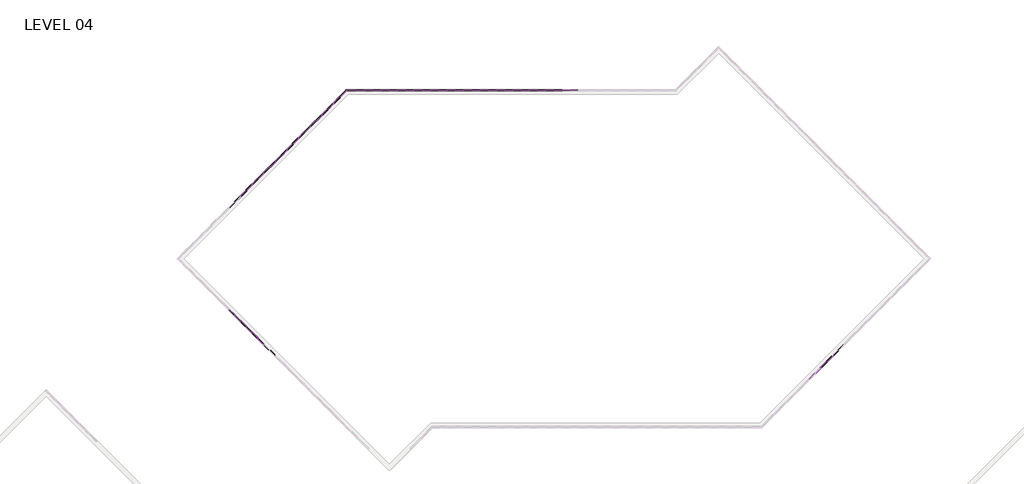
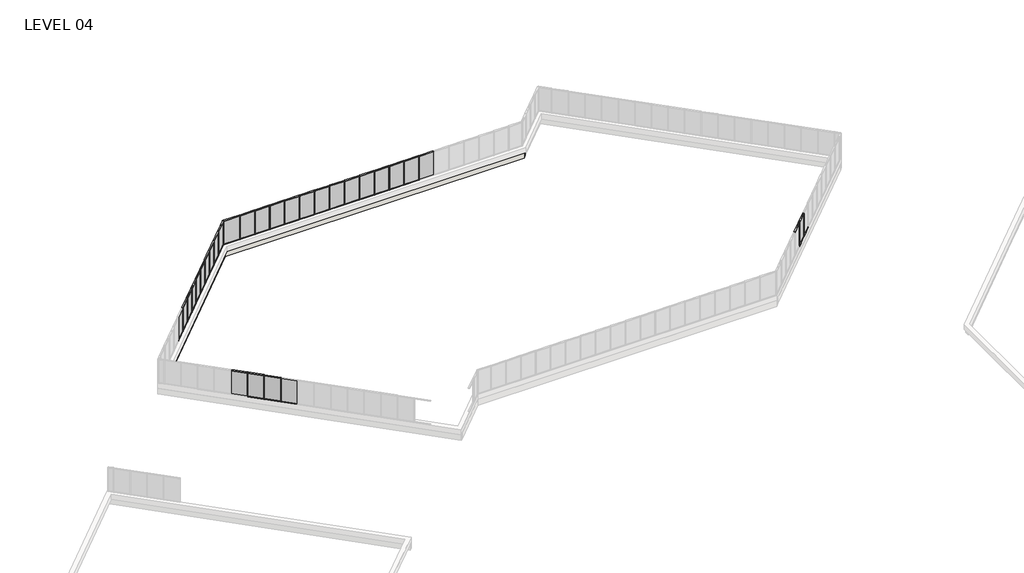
# One storey, part 14 of 17: 85 members, 29 plates, 2 walls.
"""IFC4 building model written with IfcOpenShell, lengths in millimetres."""

from ifc_helpers import new_model, si_unit, origin, place, context, project, spatial, faceted_brep, transform, mapped, element, save
from components import member_5247f267, member_e44af9ab, member_800970d4, member_1bd862b2, member_7ca0f77f, plate_67294edd, plate_bbcbcabf, plate_3fb62afd, plate_e0fd5134

model = new_model("IFC4")

# Units and contexts
model_context = context("Model", 3, world=origin())
ifc_project = project(units=[si_unit("LENGTHUNIT", "METRE", prefix="MILLI")], contexts=[model_context])

# Site, building, storey
site = spatial("IfcSite", under=ifc_project)
building = spatial("IfcBuilding", under=site)
storey = spatial("IfcBuildingStorey", under=building, Name="LEVEL 04", Elevation=12052.3)

# Members
placement = place(None, origin())
member_shape = member_5247f267(model_context)
element("IfcMember", 1, ObjectType="Rectangular Mullion : 2\" x 4.5\" rectangular", at=placement, inside=storey, context=model_context, shape_type="MappedRepresentation", body=[
    mapped(member_shape, transform((30562.55, 120127.9523049, 12052.3), x_axis=(0.0, 0.0, -1.0), y_axis=(0.0, 1.0, 0.0), z_axis=(1.0, 0.0, 0.0))),
])
element("IfcMember", 2, ObjectType="Rectangular Mullion : 2\" x 4.5\" rectangular", at=placement, inside=storey, context=model_context, shape_type="MappedRepresentation", body=[
    mapped(member_shape, transform((29038.55, 120127.9523049, 12052.3), x_axis=(0.0, 0.0, -1.0), y_axis=(0.0, 1.0, 0.0), z_axis=(1.0, 0.0, 0.0))),
])
element("IfcMember", 3, ObjectType="Rectangular Mullion : 2\" x 4.5\" rectangular", at=placement, inside=storey, context=model_context, shape_type="MappedRepresentation", body=[
    mapped(member_shape, transform((27514.55, 120127.9523049, 12052.3), x_axis=(0.0, 0.0, -1.0), y_axis=(0.0, 1.0, 0.0), z_axis=(1.0, 0.0, 0.0))),
])
element("IfcMember", 4, ObjectType="Rectangular Mullion : 2\" x 4.5\" rectangular", at=placement, inside=storey, context=model_context, shape_type="MappedRepresentation", body=[
    mapped(member_shape, transform((24466.55, 120127.9523049, 12052.3), x_axis=(0.0, 0.0, -1.0), y_axis=(0.0, 1.0, 0.0), z_axis=(1.0, 0.0, 0.0))),
])
element("IfcMember", 5, ObjectType="Rectangular Mullion : 2\" x 4.5\" rectangular", at=placement, inside=storey, context=model_context, shape_type="MappedRepresentation", body=[
    mapped(member_shape, transform((22942.55, 120127.9523049, 12052.3), x_axis=(0.0, 0.0, -1.0), y_axis=(0.0, 1.0, 0.0), z_axis=(1.0, 0.0, 0.0))),
])
element("IfcMember", 6, ObjectType="Rectangular Mullion : 2\" x 4.5\" rectangular", at=placement, inside=storey, context=model_context, shape_type="MappedRepresentation", body=[
    mapped(member_shape, transform((19894.55, 120127.9523049, 12052.3), x_axis=(0.0, 0.0, -1.0), y_axis=(0.0, 1.0, 0.0), z_axis=(1.0, 0.0, 0.0))),
])
element("IfcMember", 7, ObjectType="Rectangular Mullion : 2\" x 4.5\" rectangular", at=placement, inside=storey, context=model_context, shape_type="MappedRepresentation", body=[
    mapped(member_shape, transform((15322.55, 120127.9523049, 12052.3), x_axis=(0.0, 0.0, -1.0), y_axis=(0.0, 1.0, 0.0), z_axis=(1.0, 0.0, 0.0))),
])
element("IfcMember", 8, ObjectType="Rectangular Mullion : 2\" x 4.5\" rectangular", at=placement, inside=storey, context=model_context, shape_type="MappedRepresentation", body=[
    mapped(member_shape, transform((13798.55, 120127.9523049, 12052.3), x_axis=(0.0, 0.0, -1.0), y_axis=(0.0, 1.0, 0.0), z_axis=(1.0, 0.0, 0.0))),
])
element("IfcMember", 9, ObjectType="Rectangular Mullion : 2\" x 4.5\" rectangular", at=placement, inside=storey, context=model_context, shape_type="MappedRepresentation", body=[
    mapped(member_shape, transform((21418.55, 120127.9523049, 12052.3), x_axis=(0.0, 0.0, -1.0), y_axis=(0.0, 1.0, 0.0), z_axis=(1.0, 0.0, 0.0))),
])
element("IfcMember", 10, ObjectType="Rectangular Mullion : 2\" x 4.5\" rectangular", at=placement, inside=storey, context=model_context, shape_type="MappedRepresentation", body=[
    mapped(member_shape, transform((25990.55, 120127.9523049, 12052.3), x_axis=(0.0, 0.0, -1.0), y_axis=(0.0, 1.0, 0.0), z_axis=(1.0, 0.0, 0.0))),
])
element("IfcMember", 11, ObjectType="Rectangular Mullion : 2\" x 4.5\" rectangular", at=placement, inside=storey, context=model_context, shape_type="MappedRepresentation", body=[
    mapped(member_shape, transform((18370.55, 120127.9523049, 12052.3), x_axis=(0.0, 0.0, -1.0), y_axis=(0.0, 1.0, 0.0), z_axis=(1.0, 0.0, 0.0))),
])
element("IfcMember", 12, ObjectType="Rectangular Mullion : 2\" x 4.5\" rectangular", at=placement, inside=storey, context=model_context, shape_type="MappedRepresentation", body=[
    mapped(member_shape, transform((16846.55, 120127.9523049, 12052.3), x_axis=(0.0, 0.0, -1.0), y_axis=(0.0, 1.0, 0.0), z_axis=(1.0, 0.0, 0.0))),
])
element("IfcMember", 13, ObjectType="Rectangular Mullion : 2\" x 4.5\" rectangular", at=placement, inside=storey, context=model_context, shape_type="MappedRepresentation", body=[
    mapped(member_shape, transform((9397.6593581, 118915.3677986, 12052.3), x_axis=(0.0, 0.0, -1.0), y_axis=(-0.7071067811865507, 0.7071067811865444, 0.0), z_axis=(0.7071067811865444, 0.7071067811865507, 0.0))),
])
element("IfcMember", 14, ObjectType="Rectangular Mullion : 2\" x 4.5\" rectangular", at=placement, inside=storey, context=model_context, shape_type="MappedRepresentation", body=[
    mapped(member_shape, transform((8320.0286235, 117837.7370641, 12052.3), x_axis=(0.0, 0.0, -1.0), y_axis=(-0.7071067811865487, 0.7071067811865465, 0.0), z_axis=(0.7071067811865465, 0.7071067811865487, 0.0))),
])
element("IfcMember", 15, ObjectType="Rectangular Mullion : 2\" x 4.5\" rectangular", at=placement, inside=storey, context=model_context, shape_type="MappedRepresentation", body=[
    mapped(member_shape, transform((7242.397889, 116760.1063296, 12052.3), x_axis=(0.0, 0.0, -1.0), y_axis=(-0.7071067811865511, 0.707106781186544, 0.0), z_axis=(0.707106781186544, 0.7071067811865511, 0.0))),
])
element("IfcMember", 16, ObjectType="Rectangular Mullion : 2\" x 4.5\" rectangular", at=placement, inside=storey, context=model_context, shape_type="MappedRepresentation", body=[
    mapped(member_shape, transform((6164.7671545, 115682.475595, 12052.3), x_axis=(0.0, 0.0, -1.0), y_axis=(-0.7071067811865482, 0.7071067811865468, 0.0), z_axis=(0.7071067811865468, 0.7071067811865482, 0.0))),
])
element("IfcMember", 17, ObjectType="Rectangular Mullion : 2\" x 4.5\" rectangular", at=placement, inside=storey, context=model_context, shape_type="MappedRepresentation", body=[
    mapped(member_shape, transform((4009.5056854, 113527.214126, 12052.3), x_axis=(0.0, 0.0, -1.0), y_axis=(-0.7071067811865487, 0.7071067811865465, 0.0), z_axis=(0.7071067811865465, 0.7071067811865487, 0.0))),
])
element("IfcMember", 18, ObjectType="Rectangular Mullion : 2\" x 4.5\" rectangular", at=placement, inside=storey, context=model_context, shape_type="MappedRepresentation", body=[
    mapped(member_shape, transform((2931.8749509, 112449.5833914, 12052.3), x_axis=(0.0, 0.0, -1.0), y_axis=(-0.7071067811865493, 0.7071067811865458, 0.0), z_axis=(0.7071067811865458, 0.7071067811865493, 0.0))),
])
element("IfcMember", 19, ObjectType="Rectangular Mullion : 2\" x 4.5\" rectangular", at=placement, inside=storey, context=model_context, shape_type="MappedRepresentation", body=[
    mapped(member_shape, transform((1854.2442164, 111371.9526569, 12052.3), x_axis=(0.0, 0.0, -1.0), y_axis=(-0.7071067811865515, 0.7071067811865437, 0.0), z_axis=(0.7071067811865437, 0.7071067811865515, 0.0))),
])
element("IfcMember", 20, ObjectType="Rectangular Mullion : 2\" x 4.5\" rectangular", at=placement, inside=storey, context=model_context, shape_type="MappedRepresentation", body=[
    mapped(member_shape, transform((5087.1364199, 114604.8448605, 12052.3), x_axis=(0.0, 0.0, -1.0), y_axis=(-0.7071067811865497, 0.7071067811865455, 0.0), z_axis=(0.7071067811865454, 0.7071067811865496, 0.0))),
])
element("IfcMember", 21, ObjectType="Rectangular Mullion : 2\" x 4.5\" rectangular", at=placement, inside=storey, context=model_context, shape_type="MappedRepresentation", body=[
    mapped(member_shape, transform((776.6134818, 110294.3219224, 12052.3), x_axis=(0.0, 0.0, -1.0), y_axis=(-0.7071067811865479, 0.7071067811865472, 0.0), z_axis=(0.7071067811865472, 0.7071067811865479, 0.0))),
])
element("IfcMember", 22, ObjectType="Rectangular Mullion : 2\" x 4.5\" rectangular", at=placement, inside=storey, context=model_context, shape_type="MappedRepresentation", body=[
    mapped(member_shape, transform((812.713179, 98753.3329903, 12052.3), x_axis=(0.0, 0.0, -1.0), y_axis=(-0.7071067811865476, -0.7071067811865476, 0.0), z_axis=(-0.7071067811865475, 0.7071067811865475, 0.0))),
])
element("IfcMember", 23, ObjectType="Rectangular Mullion : 2\" x 4.5\" rectangular", at=placement, inside=storey, context=model_context, shape_type="MappedRepresentation", body=[
    mapped(member_shape, transform((1890.3439135, 97675.7022558, 12052.3), x_axis=(0.0, 0.0, -1.0), y_axis=(-0.7071067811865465, -0.7071067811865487, 0.0), z_axis=(-0.7071067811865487, 0.7071067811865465, 0.0))),
])
element("IfcMember", 24, ObjectType="Rectangular Mullion : 2\" x 4.5\" rectangular", at=placement, inside=storey, context=model_context, shape_type="MappedRepresentation", body=[
    mapped(member_shape, transform((2967.974648, 96598.0715213, 12052.3), x_axis=(0.0, 0.0, -1.0), y_axis=(-0.7071067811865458, -0.7071067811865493, 0.0), z_axis=(-0.7071067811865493, 0.7071067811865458, 0.0))),
])
element("IfcMember", 25, ObjectType="Rectangular Mullion : 2\" x 4.5\" rectangular", at=placement, inside=storey, context=model_context, shape_type="MappedRepresentation", body=[
    mapped(member_shape, transform((55642.2748488, 95556.4210181, 12052.3), x_axis=(0.0, 0.0, -1.0), y_axis=(0.7071067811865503, -0.7071067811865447, 0.0), z_axis=(-0.7071067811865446, -0.7071067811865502, 0.0))),
])
element("IfcMember", 26, ObjectType="Rectangular Mullion : 2\" x 4.5\" rectangular", at=placement, inside=storey, context=model_context, shape_type="MappedRepresentation", body=[
    mapped(member_shape, transform((54564.6515152, 94478.7976845, 12052.3), x_axis=(0.0, 0.0, -1.0), y_axis=(0.7071067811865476, -0.7071067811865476, 0.0), z_axis=(-0.7071067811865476, -0.7071067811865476, 0.0))),
])
element("IfcMember", 27, ObjectType="Rectangular Mullion : 2\" x 4.5\" rectangular", at=placement, inside=storey, context=model_context, shape_type="MappedRepresentation", body=[
    mapped(member_shape, transform((30613.35, 120127.9523049, 14643.1), x_axis=(0.0, 0.0, 1.0), y_axis=(0.0, 1.0, 0.0), z_axis=(-1.0, 0.0, 0.0))),
])
element("IfcMember", 28, ObjectType="Rectangular Mullion : 2\" x 4.5\" rectangular", at=placement, inside=storey, context=model_context, shape_type="MappedRepresentation", body=[
    mapped(member_shape, transform((29089.35, 120127.9523049, 14643.1), x_axis=(0.0, 0.0, 1.0), y_axis=(0.0, 1.0, 0.0), z_axis=(-1.0, 0.0, 0.0))),
])
element("IfcMember", 29, ObjectType="Rectangular Mullion : 2\" x 4.5\" rectangular", at=placement, inside=storey, context=model_context, shape_type="MappedRepresentation", body=[
    mapped(member_shape, transform((27565.35, 120127.9523049, 14643.1), x_axis=(0.0, 0.0, 1.0), y_axis=(0.0, 1.0, 0.0), z_axis=(-1.0, 0.0, 0.0))),
])
element("IfcMember", 30, ObjectType="Rectangular Mullion : 2\" x 4.5\" rectangular", at=placement, inside=storey, context=model_context, shape_type="MappedRepresentation", body=[
    mapped(member_shape, transform((24517.35, 120127.9523049, 14643.1), x_axis=(0.0, 0.0, 1.0), y_axis=(0.0, 1.0, 0.0), z_axis=(-1.0, 0.0, 0.0))),
])
element("IfcMember", 31, ObjectType="Rectangular Mullion : 2\" x 4.5\" rectangular", at=placement, inside=storey, context=model_context, shape_type="MappedRepresentation", body=[
    mapped(member_shape, transform((22993.35, 120127.9523049, 14643.1), x_axis=(0.0, 0.0, 1.0), y_axis=(0.0, 1.0, 0.0), z_axis=(-1.0, 0.0, 0.0))),
])
element("IfcMember", 32, ObjectType="Rectangular Mullion : 2\" x 4.5\" rectangular", at=placement, inside=storey, context=model_context, shape_type="MappedRepresentation", body=[
    mapped(member_shape, transform((19945.35, 120127.9523049, 14643.1), x_axis=(0.0, 0.0, 1.0), y_axis=(0.0, 1.0, 0.0), z_axis=(-1.0, 0.0, 0.0))),
])
element("IfcMember", 33, ObjectType="Rectangular Mullion : 2\" x 4.5\" rectangular", at=placement, inside=storey, context=model_context, shape_type="MappedRepresentation", body=[
    mapped(member_shape, transform((15373.35, 120127.9523049, 14643.1), x_axis=(0.0, 0.0, 1.0), y_axis=(0.0, 1.0, 0.0), z_axis=(-1.0, 0.0, 0.0))),
])
element("IfcMember", 34, ObjectType="Rectangular Mullion : 2\" x 4.5\" rectangular", at=placement, inside=storey, context=model_context, shape_type="MappedRepresentation", body=[
    mapped(member_shape, transform((13849.35, 120127.9523049, 14643.1), x_axis=(0.0, 0.0, 1.0), y_axis=(0.0, 1.0, 0.0), z_axis=(-1.0, 0.0, 0.0))),
])
element("IfcMember", 35, ObjectType="Rectangular Mullion : 2\" x 4.5\" rectangular", at=placement, inside=storey, context=model_context, shape_type="MappedRepresentation", body=[
    mapped(member_shape, transform((21469.35, 120127.9523049, 14643.1), x_axis=(0.0, 0.0, 1.0), y_axis=(0.0, 1.0, 0.0), z_axis=(-1.0, 0.0, 0.0))),
])
element("IfcMember", 36, ObjectType="Rectangular Mullion : 2\" x 4.5\" rectangular", at=placement, inside=storey, context=model_context, shape_type="MappedRepresentation", body=[
    mapped(member_shape, transform((26041.35, 120127.9523049, 14643.1), x_axis=(0.0, 0.0, 1.0), y_axis=(0.0, 1.0, 0.0), z_axis=(-1.0, 0.0, 0.0))),
])
element("IfcMember", 37, ObjectType="Rectangular Mullion : 2\" x 4.5\" rectangular", at=placement, inside=storey, context=model_context, shape_type="MappedRepresentation", body=[
    mapped(member_shape, transform((18421.35, 120127.9523049, 14643.1), x_axis=(0.0, 0.0, 1.0), y_axis=(0.0, 1.0, 0.0), z_axis=(-1.0, 0.0, 0.0))),
])
element("IfcMember", 38, ObjectType="Rectangular Mullion : 2\" x 4.5\" rectangular", at=placement, inside=storey, context=model_context, shape_type="MappedRepresentation", body=[
    mapped(member_shape, transform((16897.35, 120127.9523049, 14643.1), x_axis=(0.0, 0.0, 1.0), y_axis=(0.0, 1.0, 0.0), z_axis=(-1.0, 0.0, 0.0))),
])
element("IfcMember", 39, ObjectType="Rectangular Mullion : 2\" x 4.5\" rectangular", at=placement, inside=storey, context=model_context, shape_type="MappedRepresentation", body=[
    mapped(member_shape, transform((12325.35, 120127.9523049, 14643.1), x_axis=(0.0, 0.0, 1.0), y_axis=(0.0, 1.0, 0.0), z_axis=(-1.0, 0.0, 0.0))),
])
element("IfcMember", 40, ObjectType="Rectangular Mullion : 2\" x 4.5\" rectangular", at=placement, inside=storey, context=model_context, shape_type="MappedRepresentation", body=[
    mapped(member_shape, transform((8355.949648, 117873.6580886, 14643.1), x_axis=(0.0, 0.0, 1.0), y_axis=(-0.7071067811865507, 0.7071067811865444, 0.0), z_axis=(-0.7071067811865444, -0.7071067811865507, 0.0))),
])
element("IfcMember", 41, ObjectType="Rectangular Mullion : 2\" x 4.5\" rectangular", at=placement, inside=storey, context=model_context, shape_type="MappedRepresentation", body=[
    mapped(member_shape, transform((7278.3189135, 116796.027354, 14643.1), x_axis=(0.0, 0.0, 1.0), y_axis=(-0.7071067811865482, 0.7071067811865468, 0.0), z_axis=(-0.7071067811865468, -0.7071067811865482, 0.0))),
])
element("IfcMember", 42, ObjectType="Rectangular Mullion : 2\" x 4.5\" rectangular", at=placement, inside=storey, context=model_context, shape_type="MappedRepresentation", body=[
    mapped(member_shape, transform((6200.688179, 115718.3966195, 14643.1), x_axis=(0.0, 0.0, 1.0), y_axis=(-0.7071067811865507, 0.7071067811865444, 0.0), z_axis=(-0.7071067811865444, -0.7071067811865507, 0.0))),
])
element("IfcMember", 43, ObjectType="Rectangular Mullion : 2\" x 4.5\" rectangular", at=placement, inside=storey, context=model_context, shape_type="MappedRepresentation", body=[
    mapped(member_shape, transform((4045.4267099, 113563.1351505, 14643.1), x_axis=(0.0, 0.0, 1.0), y_axis=(-0.7071067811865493, 0.7071067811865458, 0.0), z_axis=(-0.7071067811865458, -0.7071067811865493, 0.0))),
])
element("IfcMember", 44, ObjectType="Rectangular Mullion : 2\" x 4.5\" rectangular", at=placement, inside=storey, context=model_context, shape_type="MappedRepresentation", body=[
    mapped(member_shape, transform((2967.7959754, 112485.5044159, 14643.1), x_axis=(0.0, 0.0, 1.0), y_axis=(-0.7071067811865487, 0.7071067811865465, 0.0), z_axis=(-0.7071067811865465, -0.7071067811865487, 0.0))),
])
element("IfcMember", 45, ObjectType="Rectangular Mullion : 2\" x 4.5\" rectangular", at=placement, inside=storey, context=model_context, shape_type="MappedRepresentation", body=[
    mapped(member_shape, transform((1890.1652408, 111407.8736814, 14643.1), x_axis=(0.0, 0.0, 1.0), y_axis=(-0.7071067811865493, 0.7071067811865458, 0.0), z_axis=(-0.7071067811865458, -0.7071067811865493, 0.0))),
])
element("IfcMember", 46, ObjectType="Rectangular Mullion : 2\" x 4.5\" rectangular", at=placement, inside=storey, context=model_context, shape_type="MappedRepresentation", body=[
    mapped(member_shape, transform((5123.0574444, 114640.765885, 14643.1), x_axis=(0.0, 0.0, 1.0), y_axis=(-0.707106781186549, 0.7071067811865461, 0.0), z_axis=(-0.707106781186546, -0.7071067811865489, 0.0))),
])
element("IfcMember", 47, ObjectType="Rectangular Mullion : 2\" x 4.5\" rectangular", at=placement, inside=storey, context=model_context, shape_type="MappedRepresentation", body=[
    mapped(member_shape, transform((812.5345063, 110330.2429469, 14643.1), x_axis=(0.0, 0.0, 1.0), y_axis=(-0.7071067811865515, 0.7071067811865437, 0.0), z_axis=(-0.7071067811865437, -0.7071067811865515, 0.0))),
])
element("IfcMember", 48, ObjectType="Rectangular Mullion : 2\" x 4.5\" rectangular", at=placement, inside=storey, context=model_context, shape_type="MappedRepresentation", body=[
    mapped(member_shape, transform((776.7921545, 98789.2540148, 14643.1), x_axis=(0.0, 0.0, 1.0), y_axis=(-0.7071067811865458, -0.7071067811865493, 0.0), z_axis=(0.7071067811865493, -0.7071067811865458, 0.0))),
])
element("IfcMember", 49, ObjectType="Rectangular Mullion : 2\" x 4.5\" rectangular", at=placement, inside=storey, context=model_context, shape_type="MappedRepresentation", body=[
    mapped(member_shape, transform((1854.422889, 97711.6232803, 14643.1), x_axis=(0.0, 0.0, 1.0), y_axis=(-0.7071067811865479, -0.7071067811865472, 0.0), z_axis=(0.7071067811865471, -0.7071067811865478, 0.0))),
])
element("IfcMember", 50, ObjectType="Rectangular Mullion : 2\" x 4.5\" rectangular", at=placement, inside=storey, context=model_context, shape_type="MappedRepresentation", body=[
    mapped(member_shape, transform((2932.0536235, 96633.9925458, 14643.1), x_axis=(0.0, 0.0, 1.0), y_axis=(-0.7071067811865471, -0.7071067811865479, 0.0), z_axis=(0.7071067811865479, -0.7071067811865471, 0.0))),
])
element("IfcMember", 51, ObjectType="Rectangular Mullion : 2\" x 4.5\" rectangular", at=placement, inside=storey, context=model_context, shape_type="MappedRepresentation", body=[
    mapped(member_shape, transform((55606.3538244, 95520.4999937, 14643.1), x_axis=(0.0, 0.0, 1.0), y_axis=(0.7071067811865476, -0.7071067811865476, 0.0), z_axis=(0.7071067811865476, 0.7071067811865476, 0.0))),
])
element("IfcMember", 52, ObjectType="Rectangular Mullion : 2\" x 4.5\" rectangular", at=placement, inside=storey, context=model_context, shape_type="MappedRepresentation", body=[
    mapped(member_shape, transform((54528.7304907, 94442.87666, 14643.1), x_axis=(0.0, 0.0, 1.0), y_axis=(0.7071067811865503, -0.7071067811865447, 0.0), z_axis=(0.7071067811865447, 0.7071067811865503, 0.0))),
])
member_2_shape = member_e44af9ab(model_context)
element("IfcMember", 53, ObjectType="Rectangular Mullion : 2\" x 4.5\" rectangular", at=placement, inside=storey, context=model_context, shape_type="MappedRepresentation", body=[
    mapped(member_2_shape, transform((30587.95, 120127.9523049, 12052.3), x_axis=(-1.0, 0.0, 0.0), y_axis=(0.0, 1.0, 0.0), z_axis=(0.0, 0.0, -1.0))),
])
element("IfcMember", 54, ObjectType="Rectangular Mullion : 2\" x 4.5\" rectangular", at=placement, inside=storey, context=model_context, shape_type="MappedRepresentation", body=[
    mapped(member_2_shape, transform((29063.95, 120127.9523049, 12052.3), x_axis=(-1.0, 0.0, 0.0), y_axis=(0.0, 1.0, 0.0), z_axis=(0.0, 0.0, -1.0))),
])
element("IfcMember", 55, ObjectType="Rectangular Mullion : 2\" x 4.5\" rectangular", at=placement, inside=storey, context=model_context, shape_type="MappedRepresentation", body=[
    mapped(member_2_shape, transform((27539.95, 120127.9523049, 12052.3), x_axis=(-1.0, 0.0, 0.0), y_axis=(0.0, 1.0, 0.0), z_axis=(0.0, 0.0, -1.0))),
])
element("IfcMember", 56, ObjectType="Rectangular Mullion : 2\" x 4.5\" rectangular", at=placement, inside=storey, context=model_context, shape_type="MappedRepresentation", body=[
    mapped(member_2_shape, transform((24491.95, 120127.9523049, 12052.3), x_axis=(-1.0, 0.0, 0.0), y_axis=(0.0, 1.0, 0.0), z_axis=(0.0, 0.0, -1.0))),
])
element("IfcMember", 57, ObjectType="Rectangular Mullion : 2\" x 4.5\" rectangular", at=placement, inside=storey, context=model_context, shape_type="MappedRepresentation", body=[
    mapped(member_2_shape, transform((22967.95, 120127.9523049, 12052.3), x_axis=(-1.0, 0.0, 0.0), y_axis=(0.0, 1.0, 0.0), z_axis=(0.0, 0.0, -1.0))),
])
element("IfcMember", 58, ObjectType="Rectangular Mullion : 2\" x 4.5\" rectangular", at=placement, inside=storey, context=model_context, shape_type="MappedRepresentation", body=[
    mapped(member_2_shape, transform((19919.95, 120127.9523049, 12052.3), x_axis=(-1.0, 0.0, 0.0), y_axis=(0.0, 1.0, 0.0), z_axis=(0.0, 0.0, -1.0))),
])
element("IfcMember", 59, ObjectType="Rectangular Mullion : 2\" x 4.5\" rectangular", at=placement, inside=storey, context=model_context, shape_type="MappedRepresentation", body=[
    mapped(member_2_shape, transform((15347.95, 120127.9523049, 12052.3), x_axis=(-1.0, 0.0, 0.0), y_axis=(0.0, 1.0, 0.0), z_axis=(0.0, 0.0, -1.0))),
])
element("IfcMember", 60, ObjectType="Rectangular Mullion : 2\" x 4.5\" rectangular", at=placement, inside=storey, context=model_context, shape_type="MappedRepresentation", body=[
    mapped(member_2_shape, transform((13823.95, 120127.9523049, 12052.3), x_axis=(-1.0, 0.0, 0.0), y_axis=(0.0, 1.0, 0.0), z_axis=(0.0, 0.0, -1.0))),
])
element("IfcMember", 61, ObjectType="Rectangular Mullion : 2\" x 4.5\" rectangular", at=placement, inside=storey, context=model_context, shape_type="MappedRepresentation", body=[
    mapped(member_2_shape, transform((21443.95, 120127.9523049, 12052.3), x_axis=(-1.0, 0.0, 0.0), y_axis=(0.0, 1.0, 0.0), z_axis=(0.0, 0.0, -1.0))),
])
element("IfcMember", 62, ObjectType="Rectangular Mullion : 2\" x 4.5\" rectangular", at=placement, inside=storey, context=model_context, shape_type="MappedRepresentation", body=[
    mapped(member_2_shape, transform((26015.95, 120127.9523049, 12052.3), x_axis=(-1.0, 0.0, 0.0), y_axis=(0.0, 1.0, 0.0), z_axis=(0.0, 0.0, -1.0))),
])
element("IfcMember", 63, ObjectType="Rectangular Mullion : 2\" x 4.5\" rectangular", at=placement, inside=storey, context=model_context, shape_type="MappedRepresentation", body=[
    mapped(member_2_shape, transform((18395.95, 120127.9523049, 12052.3), x_axis=(-1.0, 0.0, 0.0), y_axis=(0.0, 1.0, 0.0), z_axis=(0.0, 0.0, -1.0))),
])
element("IfcMember", 64, ObjectType="Rectangular Mullion : 2\" x 4.5\" rectangular", at=placement, inside=storey, context=model_context, shape_type="MappedRepresentation", body=[
    mapped(member_2_shape, transform((16871.95, 120127.9523049, 12052.3), x_axis=(-1.0, 0.0, 0.0), y_axis=(0.0, 1.0, 0.0), z_axis=(0.0, 0.0, -1.0))),
])
element("IfcMember", 65, ObjectType="Rectangular Mullion : 2\" x 4.5\" rectangular", at=placement, inside=storey, context=model_context, shape_type="MappedRepresentation", body=[
    mapped(member_2_shape, transform((12299.95, 120127.9523049, 12052.3), x_axis=(-1.0, 0.0, 0.0), y_axis=(0.0, 1.0, 0.0), z_axis=(0.0, 0.0, -1.0))),
])
element("IfcMember", 66, ObjectType="Rectangular Mullion : 2\" x 4.5\" rectangular", at=placement, inside=storey, context=model_context, shape_type="MappedRepresentation", body=[
    mapped(member_2_shape, transform((9415.6198703, 118933.3283108, 12052.3), x_axis=(-0.7071067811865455, -0.7071067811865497, 0.0), y_axis=(-0.7071067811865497, 0.7071067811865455, 0.0), z_axis=(0.0, 0.0, -1.0))),
])
element("IfcMember", 67, ObjectType="Rectangular Mullion : 2\" x 4.5\" rectangular", at=placement, inside=storey, context=model_context, shape_type="MappedRepresentation", body=[
    mapped(member_2_shape, transform((8337.9891358, 117855.6975763, 12052.3), x_axis=(-0.7071067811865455, -0.7071067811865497, 0.0), y_axis=(-0.7071067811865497, 0.7071067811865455, 0.0), z_axis=(0.0, 0.0, -1.0))),
])
element("IfcMember", 68, ObjectType="Rectangular Mullion : 2\" x 4.5\" rectangular", at=placement, inside=storey, context=model_context, shape_type="MappedRepresentation", body=[
    mapped(member_2_shape, transform((7260.3584012, 116778.0668418, 12052.3), x_axis=(-0.7071067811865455, -0.7071067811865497, 0.0), y_axis=(-0.7071067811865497, 0.7071067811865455, 0.0), z_axis=(0.0, 0.0, -1.0))),
])
element("IfcMember", 69, ObjectType="Rectangular Mullion : 2\" x 4.5\" rectangular", at=placement, inside=storey, context=model_context, shape_type="MappedRepresentation", body=[
    mapped(member_2_shape, transform((6182.7276667, 115700.4361073, 12052.3), x_axis=(-0.7071067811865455, -0.7071067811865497, 0.0), y_axis=(-0.7071067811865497, 0.7071067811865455, 0.0), z_axis=(0.0, 0.0, -1.0))),
])
element("IfcMember", 70, ObjectType="Rectangular Mullion : 2\" x 4.5\" rectangular", at=placement, inside=storey, context=model_context, shape_type="MappedRepresentation", body=[
    mapped(member_2_shape, transform((4027.4661977, 113545.1746382, 12052.3), x_axis=(-0.7071067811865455, -0.7071067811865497, 0.0), y_axis=(-0.7071067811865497, 0.7071067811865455, 0.0), z_axis=(0.0, 0.0, -1.0))),
])
element("IfcMember", 71, ObjectType="Rectangular Mullion : 2\" x 4.5\" rectangular", at=placement, inside=storey, context=model_context, shape_type="MappedRepresentation", body=[
    mapped(member_2_shape, transform((2949.8354631, 112467.5439037, 12052.3), x_axis=(-0.7071067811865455, -0.7071067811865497, 0.0), y_axis=(-0.7071067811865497, 0.7071067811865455, 0.0), z_axis=(0.0, 0.0, -1.0))),
])
element("IfcMember", 72, ObjectType="Rectangular Mullion : 2\" x 4.5\" rectangular", at=placement, inside=storey, context=model_context, shape_type="MappedRepresentation", body=[
    mapped(member_2_shape, transform((1872.2047286, 111389.9131692, 12052.3), x_axis=(-0.7071067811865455, -0.7071067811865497, 0.0), y_axis=(-0.7071067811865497, 0.7071067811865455, 0.0), z_axis=(0.0, 0.0, -1.0))),
])
element("IfcMember", 73, ObjectType="Rectangular Mullion : 2\" x 4.5\" rectangular", at=placement, inside=storey, context=model_context, shape_type="MappedRepresentation", body=[
    mapped(member_2_shape, transform((5105.0969322, 114622.8053727, 12052.3), x_axis=(-0.7071067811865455, -0.7071067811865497, 0.0), y_axis=(-0.7071067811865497, 0.7071067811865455, 0.0), z_axis=(0.0, 0.0, -1.0))),
])
element("IfcMember", 74, ObjectType="Rectangular Mullion : 2\" x 4.5\" rectangular", at=placement, inside=storey, context=model_context, shape_type="MappedRepresentation", body=[
    mapped(member_2_shape, transform((794.5739941, 110312.2824346, 12052.3), x_axis=(-0.7071067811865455, -0.7071067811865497, 0.0), y_axis=(-0.7071067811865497, 0.7071067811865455, 0.0), z_axis=(0.0, 0.0, -1.0))),
])
element("IfcMember", 75, ObjectType="Rectangular Mullion : 2\" x 4.5\" rectangular", at=placement, inside=storey, context=model_context, shape_type="MappedRepresentation", body=[
    mapped(member_2_shape, transform((794.7526667, 98771.2935026, 12052.3), x_axis=(0.7071067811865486, -0.7071067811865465, 0.0), y_axis=(-0.7071067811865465, -0.7071067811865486, 0.0), z_axis=(0.0, 0.0, -1.0))),
])
element("IfcMember", 76, ObjectType="Rectangular Mullion : 2\" x 4.5\" rectangular", at=placement, inside=storey, context=model_context, shape_type="MappedRepresentation", body=[
    mapped(member_2_shape, transform((1872.3834012, 97693.6627681, 12052.3), x_axis=(0.7071067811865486, -0.7071067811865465, 0.0), y_axis=(-0.7071067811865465, -0.7071067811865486, 0.0), z_axis=(0.0, 0.0, -1.0))),
])
element("IfcMember", 77, ObjectType="Rectangular Mullion : 2\" x 4.5\" rectangular", at=placement, inside=storey, context=model_context, shape_type="MappedRepresentation", body=[
    mapped(member_2_shape, transform((2950.0141358, 96616.0320335, 12052.3), x_axis=(0.7071067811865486, -0.7071067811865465, 0.0), y_axis=(-0.7071067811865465, -0.7071067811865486, 0.0), z_axis=(0.0, 0.0, -1.0))),
])
element("IfcMember", 78, ObjectType="Rectangular Mullion : 2\" x 4.5\" rectangular", at=placement, inside=storey, context=model_context, shape_type="MappedRepresentation", body=[
    mapped(member_2_shape, transform((55624.3143366, 95538.4605059, 12052.3), x_axis=(0.7071067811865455, 0.7071067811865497, 0.0), y_axis=(0.7071067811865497, -0.7071067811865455, 0.0), z_axis=(0.0, 0.0, -1.0))),
])
element("IfcMember", 79, ObjectType="Rectangular Mullion : 2\" x 4.5\" rectangular", at=placement, inside=storey, context=model_context, shape_type="MappedRepresentation", body=[
    mapped(member_2_shape, transform((54546.6910029, 94460.8371722, 12052.3), x_axis=(0.7071067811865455, 0.7071067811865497, 0.0), y_axis=(0.7071067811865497, -0.7071067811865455, 0.0), z_axis=(0.0, 0.0, -1.0))),
])
member_3_shape = member_800970d4(model_context)
element("IfcMember", 80, ObjectType="Rectangular Mullion : 2\" x 4.5\" rectangular", at=placement, inside=storey, context=model_context, shape_type="MappedRepresentation", body=[
    mapped(member_3_shape, transform((10610.2438644, 120127.9523049, 12052.3), x_axis=(-1.0, 0.0, 0.0), y_axis=(0.0, 1.0, 0.0), z_axis=(0.0, 0.0, -1.0))),
])
element("IfcMember", 81, ObjectType="Rectangular Mullion : 2\" x 4.5\" rectangular", at=placement, inside=storey, context=model_context, shape_type="MappedRepresentation", body=[
    mapped(member_3_shape, transform((10610.2438644, 120127.9523049, 14643.1), x_axis=(0.7071067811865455, 0.7071067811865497, 0.0), y_axis=(-0.7071067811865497, 0.7071067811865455, 0.0), z_axis=(0.0, 0.0, 1.0))),
])
member_4_shape = member_1bd862b2(model_context)
element("IfcMember", 82, ObjectType="Rectangular Mullion : 2\" x 4.5\" rectangular", at=placement, inside=storey, context=model_context, shape_type="MappedRepresentation", body=[
    mapped(member_4_shape, transform((10661.0438644, 120127.9523049, 14643.1), x_axis=(0.0, 0.0, 1.0), y_axis=(0.0, 1.0, 0.0), z_axis=(-1.0, 0.0, 0.0))),
])
element("IfcMember", 83, ObjectType="Rectangular Mullion : 2\" x 4.5\" rectangular", at=placement, inside=storey, context=model_context, shape_type="MappedRepresentation", body=[
    mapped(member_4_shape, transform((12274.55, 120127.9523049, 12052.3), x_axis=(0.0, 0.0, -1.0), y_axis=(0.0, 1.0, 0.0), z_axis=(1.0, 0.0, 0.0))),
])
member_5_shape = member_7ca0f77f(model_context)
element("IfcMember", 84, ObjectType="Rectangular Mullion : 2\" x 4.5\" rectangular", at=placement, inside=storey, context=model_context, shape_type="MappedRepresentation", body=[
    mapped(member_5_shape, transform((9433.5803825, 118951.2888231, 14643.1), x_axis=(0.0, 0.0, 1.0), y_axis=(-0.7071067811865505, 0.7071067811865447, 0.0), z_axis=(-0.7071067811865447, -0.7071067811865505, 0.0))),
])
element("IfcMember", 85, ObjectType="Rectangular Mullion : 2\" x 4.5\" rectangular", at=placement, inside=storey, context=model_context, shape_type="MappedRepresentation", body=[
    mapped(member_5_shape, transform((10574.3228399, 120092.0312804, 12052.3), x_axis=(0.0, 0.0, -1.0), y_axis=(-0.7071067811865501, 0.7071067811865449, 0.0), z_axis=(0.7071067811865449, 0.7071067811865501, 0.0))),
])

# Plates
plate_shape = plate_67294edd(model_context)
element("IfcPlate", 86, ObjectType="System Panel : 1/4\" Glass", at=placement, inside=storey, context=model_context, shape_type="MappedRepresentation", body=[
    mapped(plate_shape, transform((29825.95, 120127.9523049, 12103.1), x_axis=(-1.0, 0.0, 0.0), y_axis=(0.0, -1.0, 0.0), z_axis=(0.0, 0.0, 1.0))),
])
element("IfcPlate", 87, ObjectType="System Panel : 1/4\" Glass", at=placement, inside=storey, context=model_context, shape_type="MappedRepresentation", body=[
    mapped(plate_shape, transform((28301.95, 120127.9523049, 12103.1), x_axis=(-1.0, 0.0, 0.0), y_axis=(0.0, -1.0, 0.0), z_axis=(0.0, 0.0, 1.0))),
])
element("IfcPlate", 88, ObjectType="System Panel : 1/4\" Glass", at=placement, inside=storey, context=model_context, shape_type="MappedRepresentation", body=[
    mapped(plate_shape, transform((26777.95, 120127.9523049, 12103.1), x_axis=(-1.0, 0.0, 0.0), y_axis=(0.0, -1.0, 0.0), z_axis=(0.0, 0.0, 1.0))),
])
element("IfcPlate", 89, ObjectType="System Panel : 1/4\" Glass", at=placement, inside=storey, context=model_context, shape_type="MappedRepresentation", body=[
    mapped(plate_shape, transform((23729.95, 120127.9523049, 12103.1), x_axis=(-1.0, 0.0, 0.0), y_axis=(0.0, -1.0, 0.0), z_axis=(0.0, 0.0, 1.0))),
])
element("IfcPlate", 90, ObjectType="System Panel : 1/4\" Glass", at=placement, inside=storey, context=model_context, shape_type="MappedRepresentation", body=[
    mapped(plate_shape, transform((22205.95, 120127.9523049, 12103.1), x_axis=(-1.0, 0.0, 0.0), y_axis=(0.0, -1.0, 0.0), z_axis=(0.0, 0.0, 1.0))),
])
element("IfcPlate", 91, ObjectType="System Panel : 1/4\" Glass", at=placement, inside=storey, context=model_context, shape_type="MappedRepresentation", body=[
    mapped(plate_shape, transform((19157.95, 120127.9523049, 12103.1), x_axis=(-1.0, 0.0, 0.0), y_axis=(0.0, -1.0, 0.0), z_axis=(0.0, 0.0, 1.0))),
])
element("IfcPlate", 92, ObjectType="System Panel : 1/4\" Glass", at=placement, inside=storey, context=model_context, shape_type="MappedRepresentation", body=[
    mapped(plate_shape, transform((14585.95, 120127.9523049, 12103.1), x_axis=(-1.0, 0.0, 0.0), y_axis=(0.0, -1.0, 0.0), z_axis=(0.0, 0.0, 1.0))),
])
element("IfcPlate", 93, ObjectType="System Panel : 1/4\" Glass", at=placement, inside=storey, context=model_context, shape_type="MappedRepresentation", body=[
    mapped(plate_shape, transform((13061.95, 120127.9523049, 12103.1), x_axis=(-1.0, 0.0, 0.0), y_axis=(0.0, -1.0, 0.0), z_axis=(0.0, 0.0, 1.0))),
])
element("IfcPlate", 94, ObjectType="System Panel : 1/4\" Glass", at=placement, inside=storey, context=model_context, shape_type="MappedRepresentation", body=[
    mapped(plate_shape, transform((31349.95, 120127.9523049, 12103.1), x_axis=(-1.0, 0.0, 0.0), y_axis=(0.0, -1.0, 0.0), z_axis=(0.0, 0.0, 1.0))),
])
element("IfcPlate", 95, ObjectType="System Panel : 1/4\" Glass", at=placement, inside=storey, context=model_context, shape_type="MappedRepresentation", body=[
    mapped(plate_shape, transform((20681.95, 120127.9523049, 12103.1), x_axis=(-1.0, 0.0, 0.0), y_axis=(0.0, -1.0, 0.0), z_axis=(0.0, 0.0, 1.0))),
])
element("IfcPlate", 96, ObjectType="System Panel : 1/4\" Glass", at=placement, inside=storey, context=model_context, shape_type="MappedRepresentation", body=[
    mapped(plate_shape, transform((25253.95, 120127.9523049, 12103.1), x_axis=(-1.0, 0.0, 0.0), y_axis=(0.0, -1.0, 0.0), z_axis=(0.0, 0.0, 1.0))),
])
element("IfcPlate", 97, ObjectType="System Panel : 1/4\" Glass", at=placement, inside=storey, context=model_context, shape_type="MappedRepresentation", body=[
    mapped(plate_shape, transform((17633.95, 120127.9523049, 12103.1), x_axis=(-1.0, 0.0, 0.0), y_axis=(0.0, -1.0, 0.0), z_axis=(0.0, 0.0, 1.0))),
])
element("IfcPlate", 98, ObjectType="System Panel : 1/4\" Glass", at=placement, inside=storey, context=model_context, shape_type="MappedRepresentation", body=[
    mapped(plate_shape, transform((16109.95, 120127.9523049, 12103.1), x_axis=(-1.0, 0.0, 0.0), y_axis=(0.0, -1.0, 0.0), z_axis=(0.0, 0.0, 1.0))),
])
element("IfcPlate", 99, ObjectType="System Panel : 1/4\" Glass", at=placement, inside=storey, context=model_context, shape_type="MappedRepresentation", body=[
    mapped(plate_shape, transform((8876.804503, 118394.5129436, 12103.1), x_axis=(-0.7071067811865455, -0.7071067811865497, 0.0), y_axis=(0.7071067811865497, -0.7071067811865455, 0.0), z_axis=(0.0, 0.0, 1.0))),
])
element("IfcPlate", 100, ObjectType="System Panel : 1/4\" Glass", at=placement, inside=storey, context=model_context, shape_type="MappedRepresentation", body=[
    mapped(plate_shape, transform((7799.1737685, 117316.8822091, 12103.1), x_axis=(-0.7071067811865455, -0.7071067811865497, 0.0), y_axis=(0.7071067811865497, -0.7071067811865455, 0.0), z_axis=(0.0, 0.0, 1.0))),
])
element("IfcPlate", 101, ObjectType="System Panel : 1/4\" Glass", at=placement, inside=storey, context=model_context, shape_type="MappedRepresentation", body=[
    mapped(plate_shape, transform((6721.543034, 116239.2514745, 12103.1), x_axis=(-0.7071067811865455, -0.7071067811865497, 0.0), y_axis=(0.7071067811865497, -0.7071067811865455, 0.0), z_axis=(0.0, 0.0, 1.0))),
])
element("IfcPlate", 102, ObjectType="System Panel : 1/4\" Glass", at=placement, inside=storey, context=model_context, shape_type="MappedRepresentation", body=[
    mapped(plate_shape, transform((5643.9122995, 115161.62074, 12103.1), x_axis=(-0.7071067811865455, -0.7071067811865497, 0.0), y_axis=(0.7071067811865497, -0.7071067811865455, 0.0), z_axis=(0.0, 0.0, 1.0))),
])
element("IfcPlate", 103, ObjectType="System Panel : 1/4\" Glass", at=placement, inside=storey, context=model_context, shape_type="MappedRepresentation", body=[
    mapped(plate_shape, transform((3488.6508304, 113006.3592709, 12103.1), x_axis=(-0.7071067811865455, -0.7071067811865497, 0.0), y_axis=(0.7071067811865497, -0.7071067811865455, 0.0), z_axis=(0.0, 0.0, 1.0))),
])
element("IfcPlate", 104, ObjectType="System Panel : 1/4\" Glass", at=placement, inside=storey, context=model_context, shape_type="MappedRepresentation", body=[
    mapped(plate_shape, transform((2411.0200959, 111928.7285364, 12103.1), x_axis=(-0.7071067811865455, -0.7071067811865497, 0.0), y_axis=(0.7071067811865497, -0.7071067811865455, 0.0), z_axis=(0.0, 0.0, 1.0))),
])
element("IfcPlate", 105, ObjectType="System Panel : 1/4\" Glass", at=placement, inside=storey, context=model_context, shape_type="MappedRepresentation", body=[
    mapped(plate_shape, transform((1333.3893613, 110851.0978019, 12103.1), x_axis=(-0.7071067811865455, -0.7071067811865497, 0.0), y_axis=(0.7071067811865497, -0.7071067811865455, 0.0), z_axis=(0.0, 0.0, 1.0))),
])
element("IfcPlate", 106, ObjectType="System Panel : 1/4\" Glass", at=placement, inside=storey, context=model_context, shape_type="MappedRepresentation", body=[
    mapped(plate_shape, transform((4566.2815649, 114083.9900055, 12103.1), x_axis=(-0.7071067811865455, -0.7071067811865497, 0.0), y_axis=(0.7071067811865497, -0.7071067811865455, 0.0), z_axis=(0.0, 0.0, 1.0))),
])
element("IfcPlate", 107, ObjectType="System Panel : 1/4\" Glass", at=placement, inside=storey, context=model_context, shape_type="MappedRepresentation", body=[
    mapped(plate_shape, transform((255.7586268, 109773.4670674, 12103.1), x_axis=(-0.7071067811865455, -0.7071067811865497, 0.0), y_axis=(0.7071067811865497, -0.7071067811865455, 0.0), z_axis=(0.0, 0.0, 1.0))),
])
element("IfcPlate", 108, ObjectType="System Panel : 1/4\" Glass", at=placement, inside=storey, context=model_context, shape_type="MappedRepresentation", body=[
    mapped(plate_shape, transform((1333.568034, 98232.4781353, 12103.1), x_axis=(0.7071067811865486, -0.7071067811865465, 0.0), y_axis=(0.7071067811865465, 0.7071067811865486, 0.0), z_axis=(0.0, 0.0, 1.0))),
])
element("IfcPlate", 109, ObjectType="System Panel : 1/4\" Glass", at=placement, inside=storey, context=model_context, shape_type="MappedRepresentation", body=[
    mapped(plate_shape, transform((2411.1987685, 97154.8474008, 12103.1), x_axis=(0.7071067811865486, -0.7071067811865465, 0.0), y_axis=(0.7071067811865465, 0.7071067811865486, 0.0), z_axis=(0.0, 0.0, 1.0))),
])
element("IfcPlate", 110, ObjectType="System Panel : 1/4\" Glass", at=placement, inside=storey, context=model_context, shape_type="MappedRepresentation", body=[
    mapped(plate_shape, transform((3488.829503, 96077.2166663, 12103.1), x_axis=(0.7071067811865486, -0.7071067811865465, 0.0), y_axis=(0.7071067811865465, 0.7071067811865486, 0.0), z_axis=(0.0, 0.0, 1.0))),
])
element("IfcPlate", 111, ObjectType="System Panel : 1/4\" Glass", at=placement, inside=storey, context=model_context, shape_type="MappedRepresentation", body=[
    mapped(plate_shape, transform((255.9372995, 99310.1088698, 12103.1), x_axis=(0.7071067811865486, -0.7071067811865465, 0.0), y_axis=(0.7071067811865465, 0.7071067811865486, 0.0), z_axis=(0.0, 0.0, 1.0))),
])
plate_2_shape = plate_bbcbcabf(model_context)
element("IfcPlate", 112, ObjectType="System Panel : 1/4\" Glass", at=placement, inside=storey, context=model_context, shape_type="MappedRepresentation", body=[
    mapped(plate_2_shape, transform((11467.7969322, 120127.9523049, 12103.1), x_axis=(-1.0, 0.0, 0.0), y_axis=(0.0, -1.0, 0.0), z_axis=(0.0, 0.0, 1.0))),
])
plate_3_shape = plate_3fb62afd(model_context)
element("IfcPlate", 113, ObjectType="System Panel : 1/4\" Glass", at=placement, inside=storey, context=model_context, shape_type="MappedRepresentation", body=[
    mapped(plate_3_shape, transform((10003.9516112, 119521.6600518, 12103.1), x_axis=(-0.7071067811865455, -0.7071067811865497, 0.0), y_axis=(0.7071067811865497, -0.7071067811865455, 0.0), z_axis=(0.0, 0.0, 1.0))),
])
plate_4_shape = plate_e0fd5134(model_context)
element("IfcPlate", 114, ObjectType="System Panel : 1/4\" Glass", at=placement, inside=storey, context=model_context, shape_type="MappedRepresentation", body=[
    mapped(plate_4_shape, transform((55085.5026698, 94999.6488391, 12103.1), x_axis=(0.7071067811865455, 0.7071067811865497, 0.0), y_axis=(-0.7071067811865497, 0.7071067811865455, 0.0), z_axis=(0.0, 0.0, 1.0))),
])

# Walls
element("IfcWall", 115, ObjectType="01-CONCRETE-12", at=placement, inside=storey, context=model_context, shape_type="Brep", body=[
    faceted_brep([(-4625.6011469, 104541.8773049, 10871.2), (10712.8238531, 119880.3023049, 10871.2), (11017.6238531, 120185.1023049, 10871.2), (11017.6238531, 120185.1023049, 11493.5), (10712.8238531, 119880.3023049, 11493.5), (-4625.6011469, 104541.8773049, 11493.5), (-4841.1272938, 104757.4034518, 10871.2), (-4841.1272938, 104757.4034518, 11493.5), (10586.5715593, 120185.1023049, 11493.5), (10586.5715593, 120185.1023049, 10871.2)], [[[0, 1, 2, 3, 4, 5]], [[6, 7, 8, 9]], [[2, 1, 0, 6, 9]], [[5, 4, 3, 8, 7]], [[3, 2, 9, 8]], [[0, 5, 7, 6]]]),
])
element("IfcWall", 116, ObjectType="01-CONCRETE-12", at=placement, inside=storey, context=model_context, shape_type="Brep", body=[
    faceted_brep([(10712.8238531, 119880.3023049, 10871.2), (41192.8238531, 119880.3023049, 10871.2), (41192.8238531, 119880.3023049, 11493.5), (10712.8238531, 119880.3023049, 11493.5), (11017.6238531, 120185.1023049, 10871.2), (11017.6238531, 120185.1023049, 11493.5), (41066.5715593, 120185.1023049, 11493.5), (41497.6238531, 120185.1023049, 11493.5), (41497.6238531, 120185.1023049, 10871.2), (41066.5715593, 120185.1023049, 10871.2)], [[[0, 1, 2, 3]], [[4, 5, 6, 7, 8, 9]], [[1, 0, 4, 9, 8]], [[3, 2, 7, 6, 5]], [[0, 3, 5, 4]], [[2, 1, 8, 7]]]),
])

save(model, "model.ifc")
